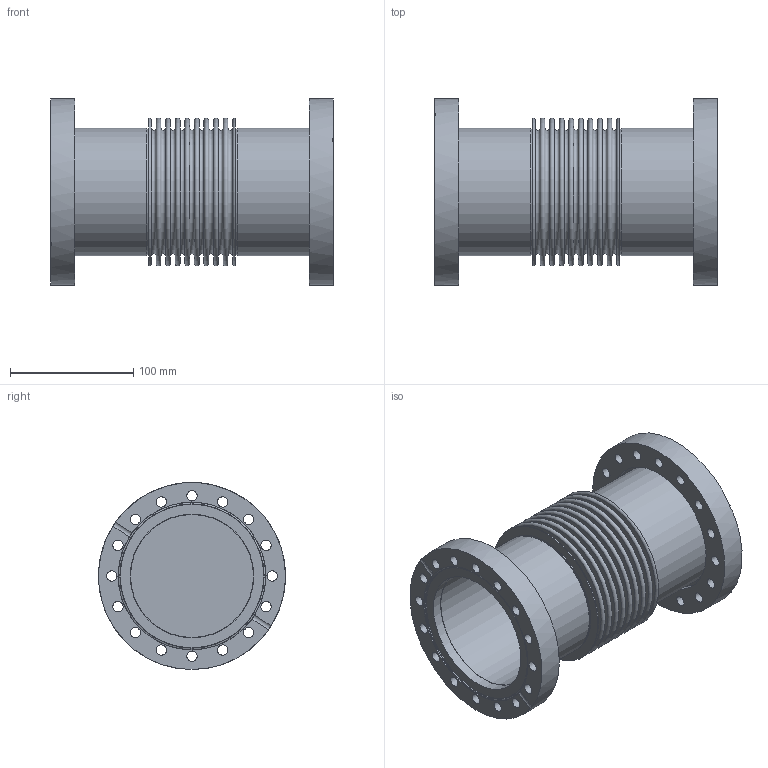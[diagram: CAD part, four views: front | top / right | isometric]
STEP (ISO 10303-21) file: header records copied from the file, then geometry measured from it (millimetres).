
FILE_DESCRIPTION( ( 'Unknown' ), '1' );
FILE_NAME( 'X:/Daten ( aktueller Bestand )/Projekte und Zeichnungen/Solid Edge/STP-Dateien/CF-Teile/7994R.stp', 'Unknown', ( 'Unknown' ), ( 'Unknown' ), 'PSStep 14.0', 'Unknown', ' ' );
FILE_SCHEMA( ( 'AUTOMOTIVE_DESIGN { 1 0 10303 214 1 1 1 1 }' ) );
Length unit declared in the file: millimetre
Products named in the file (7): 7514R; 7514R-1; 7514R-2; Assem1; 7904R-1; 7514F; 7994R-2
Assembly tree (7 placements, depth 3):
  Assem1
    7904R-1  x2
    7514F
    7994R-2
    7514R
      7514R-1
      7514R-2
Bounding box: 230 x 152 x 152 mm (x, y, z)
Volume: 1103783.3 mm3; surface area: 293283.8 mm2
Topology: 6 solids, 6 shells, 117 faces, 271 edges, 190 vertices
Faces by surface type: cylinder 54, plane 40, torus 19, cone 4
Full cylindrical faces by diameter (mm): 8.4 x32, 100 x2, 100.5 x2, 102 x2, 104 x4, 104.3 x2, 109 x1, 120 x2, 120.6 x1, 152 x2
Entity records: 3856 total; most frequent: CARTESIAN_POINT 554, DIRECTION 520, ORIENTED_EDGE 308, EDGE_LOOP 272, AXIS2_PLACEMENT_3D 256, FACE_OUTER_BOUND 174, EDGE_CURVE 154, VERTEX_POINT 146
